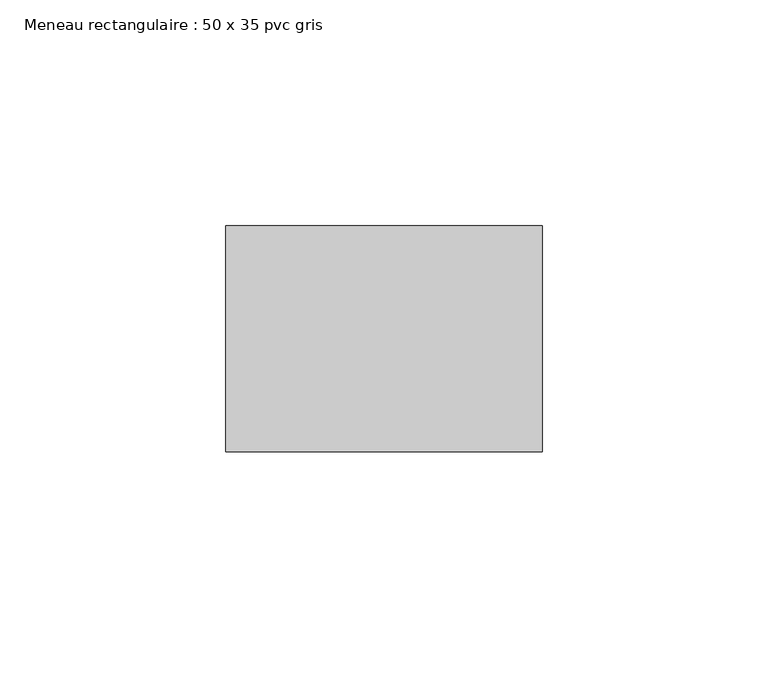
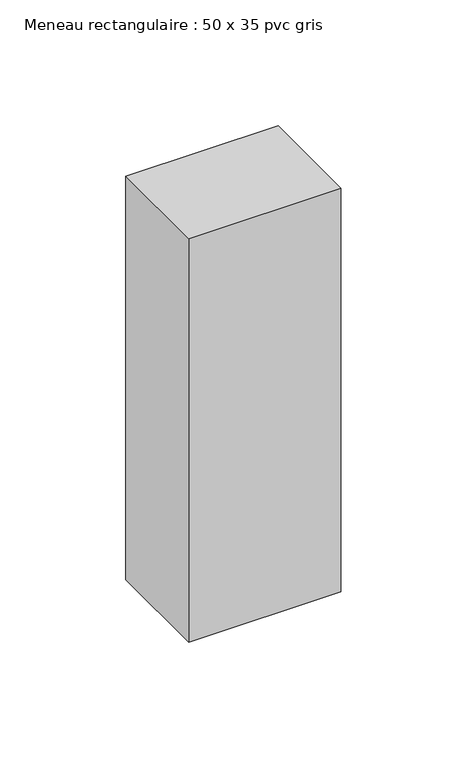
"""IFC4 building model written with IfcOpenShell, lengths in millimetres: member geometry, Meneau rectangulaire : 50 x 35 pvc gris."""

from ifc_helpers import new_model, si_unit, frame, origin, place, context, project, spatial, polyline, outline, extrude, source, transform, mapped, element, save


def meneau_rectangulaire_50_x_35_pvc_gris_8e71dc7c(model_context):
    return source(origin(), model_context, "Body", "SweptSolid", [
        extrude(outline(polyline([(0.0, 0.0), (0.0, -50.0), (-70.0, -50.0), (-70.0, 0.0), (0.0, 0.0)])), frame((0.0, 0.0, -196.0), z_axis=(0.0, 0.0, 1.0), x_axis=(1.0, 0.0, 0.0)), (0.0, 0.0, 1.0), 196.0),
    ])


if __name__ == "__main__":
    model = new_model("IFC4")
    model_context = context("Model", 3, world=origin())
    ifc_project = project(units=[si_unit("LENGTHUNIT", "METRE", prefix="MILLI")], contexts=[model_context])
    site = spatial("IfcSite", under=ifc_project)
    building = spatial("IfcBuilding", under=site)
    placement = place(None, origin())
    meneau_rectangulaire_50_x_35_pvc_gris_shape = meneau_rectangulaire_50_x_35_pvc_gris_8e71dc7c(model_context)
    element("IfcMember", 1, ObjectType="Meneau rectangulaire : 50 x 35 pvc gris", at=placement, inside=building, context=model_context, shape_type="MappedRepresentation", body=[
        mapped(meneau_rectangulaire_50_x_35_pvc_gris_shape, transform((0.0, 0.0, 0.0), x_axis=(1.0, 0.0, 0.0), y_axis=(0.0, 1.0, 0.0), z_axis=(0.0, 0.0, 1.0))),
    ])
    save(model, "model.ifc")
